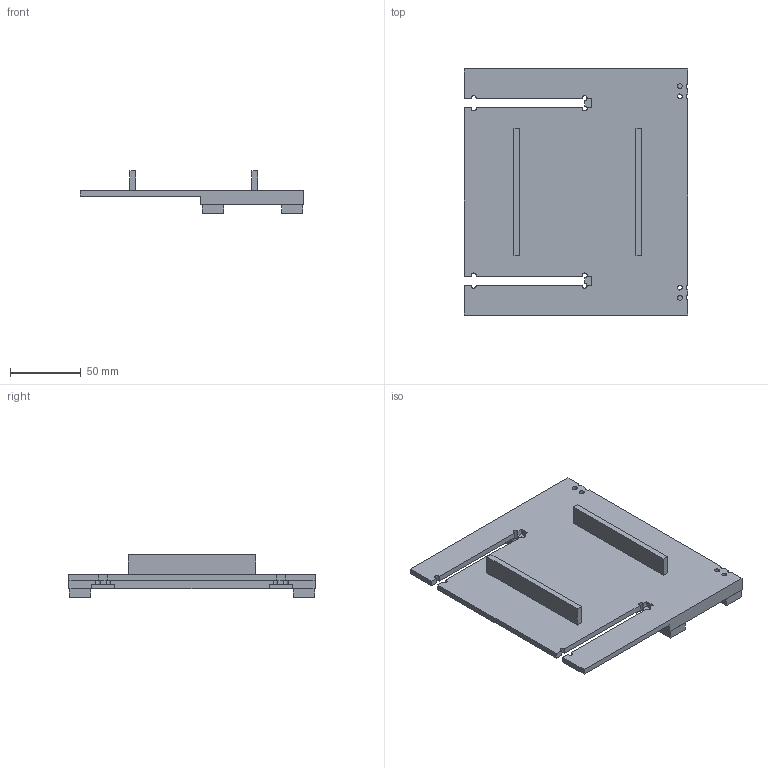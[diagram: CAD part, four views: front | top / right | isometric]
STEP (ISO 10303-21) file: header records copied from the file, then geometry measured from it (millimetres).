
FILE_DESCRIPTION(('Open CASCADE Model'),'2;1');
FILE_NAME('SCZ-BASE','2026-11-15T22:39:11',('Author'),('Open CASCADE'), 'Open CASCADE STEP processor 8.0','build123d','Unknown');
FILE_SCHEMA(('AUTOMOTIVE_DESIGN { 1 0 10303 214 1 1 1 1 }'));
Length unit declared in the file: millimetre
Products named in the file (1): SCZ-BASE
Bounding box: 157.5 x 173.5 x 30 mm (x, y, z)
Volume: 193488.6 mm3; surface area: 66942.5 mm2
Topology: 1 solids, 1 shells, 108 faces, 300 edges, 200 vertices
Faces by surface type: plane 88, cylinder 20
Full cylindrical faces by diameter (mm): 3.4 x6
Entity records: 7183 total; most frequent: CARTESIAN_POINT 1591, DIRECTION 899, ORIENTED_EDGE 600, PCURVE 600, DEFINITIONAL_REPRESENTATION 600, LINE 560, VECTOR 560, EDGE_CURVE 300
